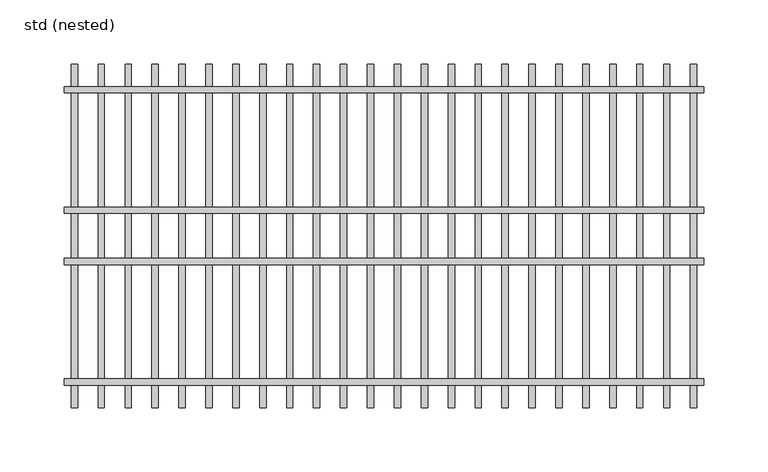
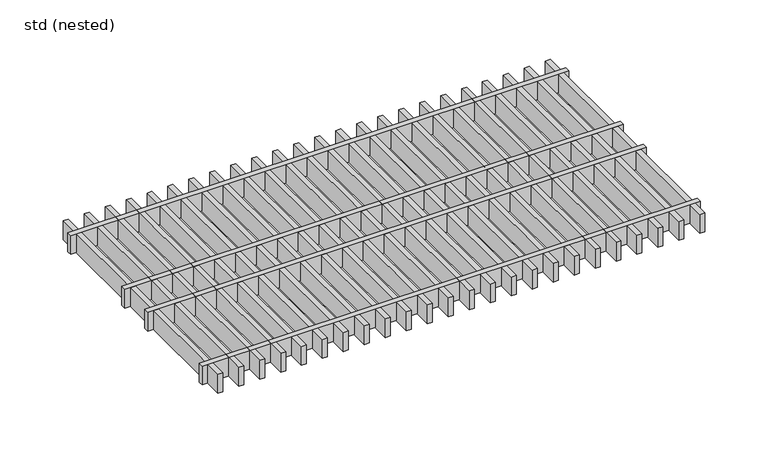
"""IFC4 building model written with IfcOpenShell, lengths in millimetres: sanitary terminal geometry, ZZZ_do not use_PF_ST_UN_grating for box channel_ACO : std (nested)."""

from ifc_helpers import new_model, si_unit, frame, origin, place, context, project, spatial, polyline, outline, extrude, source, transform, mapped, element, save


def std_nested_95b3bbc4(model_context):
    return source(origin(), model_context, "Body", "SweptSolid", [
        extrude(outline(polyline([(249.5, -116.5), (-249.5, -116.5), (-249.5, -111.5), (249.5, -111.5), (249.5, -116.5)])), frame((0.0, 0.0, -20.0), z_axis=(0.0, 0.0, 1.0), x_axis=(1.0, 0.0, 0.0)), (0.0, 0.0, 1.0), 20.0),
        extrude(outline(polyline([(249.5, 116.5), (249.5, 111.5), (-249.5, 111.5), (-249.5, 116.5), (249.5, 116.5)])), frame((0.0, 0.0, -20.0), z_axis=(0.0, 0.0, 1.0), x_axis=(1.0, 0.0, 0.0)), (0.0, 0.0, 1.0), 20.0),
        extrude(outline(polyline([(249.5, 22.5), (249.5, 17.5), (-249.5, 17.5), (-249.5, 22.5), (249.5, 22.5)])), frame((0.0, 0.0, -20.0), z_axis=(0.0, 0.0, 1.0), x_axis=(1.0, 0.0, 0.0)), (0.0, 0.0, 1.0), 20.0),
        extrude(outline(polyline([(249.5, -22.5), (-249.5, -22.5), (-249.5, -17.5), (249.5, -17.5), (249.5, -22.5)])), frame((0.0, 0.0, -20.0), z_axis=(0.0, 0.0, 1.0), x_axis=(1.0, 0.0, 0.0)), (0.0, 0.0, 1.0), 20.0),
        extrude(outline(polyline([(-244.0, 134.0), (-239.0, 134.0), (-239.0, -134.0), (-244.0, -134.0), (-244.0, 134.0)])), frame((0.0, 0.0, -20.0), z_axis=(0.0, 0.0, 1.0), x_axis=(1.0, 0.0, 0.0)), (0.0, 0.0, 1.0), 20.0),
        extrude(outline(polyline([(-223.0, 134.0), (-218.0, 134.0), (-218.0, -134.0), (-223.0, -134.0), (-223.0, 134.0)])), frame((0.0, 0.0, -20.0), z_axis=(0.0, 0.0, 1.0), x_axis=(1.0, 0.0, 0.0)), (0.0, 0.0, 1.0), 20.0),
        extrude(outline(polyline([(-202.0, 134.0), (-197.0, 134.0), (-197.0, -134.0), (-202.0, -134.0), (-202.0, 134.0)])), frame((0.0, 0.0, -20.0), z_axis=(0.0, 0.0, 1.0), x_axis=(1.0, 0.0, 0.0)), (0.0, 0.0, 1.0), 20.0),
        extrude(outline(polyline([(-181.0, 134.0), (-176.0, 134.0), (-176.0, -134.0), (-181.0, -134.0), (-181.0, 134.0)])), frame((0.0, 0.0, -20.0), z_axis=(0.0, 0.0, 1.0), x_axis=(1.0, 0.0, 0.0)), (0.0, 0.0, 1.0), 20.0),
        extrude(outline(polyline([(-160.0, 134.0), (-155.0, 134.0), (-155.0, -134.0), (-160.0, -134.0), (-160.0, 134.0)])), frame((0.0, 0.0, -20.0), z_axis=(0.0, 0.0, 1.0), x_axis=(1.0, 0.0, 0.0)), (0.0, 0.0, 1.0), 20.0),
        extrude(outline(polyline([(-139.0, 134.0), (-134.0, 134.0), (-134.0, -134.0), (-139.0, -134.0), (-139.0, 134.0)])), frame((0.0, 0.0, -20.0), z_axis=(0.0, 0.0, 1.0), x_axis=(1.0, 0.0, 0.0)), (0.0, 0.0, 1.0), 20.0),
        extrude(outline(polyline([(-118.0, 134.0), (-113.0, 134.0), (-113.0, -134.0), (-118.0, -134.0), (-118.0, 134.0)])), frame((0.0, 0.0, -20.0), z_axis=(0.0, 0.0, 1.0), x_axis=(1.0, 0.0, 0.0)), (0.0, 0.0, 1.0), 20.0),
        extrude(outline(polyline([(-97.0, 134.0), (-92.0, 134.0), (-92.0, -134.0), (-97.0, -134.0), (-97.0, 134.0)])), frame((0.0, 0.0, -20.0), z_axis=(0.0, 0.0, 1.0), x_axis=(1.0, 0.0, 0.0)), (0.0, 0.0, 1.0), 20.0),
        extrude(outline(polyline([(-76.0, 134.0), (-71.0, 134.0), (-71.0, -134.0), (-76.0, -134.0), (-76.0, 134.0)])), frame((0.0, 0.0, -20.0), z_axis=(0.0, 0.0, 1.0), x_axis=(1.0, 0.0, 0.0)), (0.0, 0.0, 1.0), 20.0),
        extrude(outline(polyline([(-55.0, 134.0), (-50.0, 134.0), (-50.0, -134.0), (-55.0, -134.0), (-55.0, 134.0)])), frame((0.0, 0.0, -20.0), z_axis=(0.0, 0.0, 1.0), x_axis=(1.0, 0.0, 0.0)), (0.0, 0.0, 1.0), 20.0),
        extrude(outline(polyline([(-34.0, 134.0), (-29.0, 134.0), (-29.0, -134.0), (-34.0, -134.0), (-34.0, 134.0)])), frame((0.0, 0.0, -20.0), z_axis=(0.0, 0.0, 1.0), x_axis=(1.0, 0.0, 0.0)), (0.0, 0.0, 1.0), 20.0),
        extrude(outline(polyline([(244.0, 134.0), (244.0, -134.0), (239.0, -134.0), (239.0, 134.0), (244.0, 134.0)])), frame((0.0, 0.0, -20.0), z_axis=(0.0, 0.0, 1.0), x_axis=(1.0, 0.0, 0.0)), (0.0, 0.0, 1.0), 20.0),
        extrude(outline(polyline([(223.0, 134.0), (223.0, -134.0), (218.0, -134.0), (218.0, 134.0), (223.0, 134.0)])), frame((0.0, 0.0, -20.0), z_axis=(0.0, 0.0, 1.0), x_axis=(1.0, 0.0, 0.0)), (0.0, 0.0, 1.0), 20.0),
        extrude(outline(polyline([(202.0, 134.0), (202.0, -134.0), (197.0, -134.0), (197.0, 134.0), (202.0, 134.0)])), frame((0.0, 0.0, -20.0), z_axis=(0.0, 0.0, 1.0), x_axis=(1.0, 0.0, 0.0)), (0.0, 0.0, 1.0), 20.0),
        extrude(outline(polyline([(181.0, 134.0), (181.0, -134.0), (176.0, -134.0), (176.0, 134.0), (181.0, 134.0)])), frame((0.0, 0.0, -20.0), z_axis=(0.0, 0.0, 1.0), x_axis=(1.0, 0.0, 0.0)), (0.0, 0.0, 1.0), 20.0),
        extrude(outline(polyline([(160.0, 134.0), (160.0, -134.0), (155.0, -134.0), (155.0, 134.0), (160.0, 134.0)])), frame((0.0, 0.0, -20.0), z_axis=(0.0, 0.0, 1.0), x_axis=(1.0, 0.0, 0.0)), (0.0, 0.0, 1.0), 20.0),
        extrude(outline(polyline([(139.0, 134.0), (139.0, -134.0), (134.0, -134.0), (134.0, 134.0), (139.0, 134.0)])), frame((0.0, 0.0, -20.0), z_axis=(0.0, 0.0, 1.0), x_axis=(1.0, 0.0, 0.0)), (0.0, 0.0, 1.0), 20.0),
        extrude(outline(polyline([(118.0, 134.0), (118.0, -134.0), (113.0, -134.0), (113.0, 134.0), (118.0, 134.0)])), frame((0.0, 0.0, -20.0), z_axis=(0.0, 0.0, 1.0), x_axis=(1.0, 0.0, 0.0)), (0.0, 0.0, 1.0), 20.0),
        extrude(outline(polyline([(97.0, 134.0), (97.0, -134.0), (92.0, -134.0), (92.0, 134.0), (97.0, 134.0)])), frame((0.0, 0.0, -20.0), z_axis=(0.0, 0.0, 1.0), x_axis=(1.0, 0.0, 0.0)), (0.0, 0.0, 1.0), 20.0),
        extrude(outline(polyline([(76.0, 134.0), (76.0, -134.0), (71.0, -134.0), (71.0, 134.0), (76.0, 134.0)])), frame((0.0, 0.0, -20.0), z_axis=(0.0, 0.0, 1.0), x_axis=(1.0, 0.0, 0.0)), (0.0, 0.0, 1.0), 20.0),
        extrude(outline(polyline([(55.0, 134.0), (55.0, -134.0), (50.0, -134.0), (50.0, 134.0), (55.0, 134.0)])), frame((0.0, 0.0, -20.0), z_axis=(0.0, 0.0, 1.0), x_axis=(1.0, 0.0, 0.0)), (0.0, 0.0, 1.0), 20.0),
        extrude(outline(polyline([(34.0, 134.0), (34.0, -134.0), (29.0, -134.0), (29.0, 134.0), (34.0, 134.0)])), frame((0.0, 0.0, -20.0), z_axis=(0.0, 0.0, 1.0), x_axis=(1.0, 0.0, 0.0)), (0.0, 0.0, 1.0), 20.0),
        extrude(outline(polyline([(-13.0, 134.0), (-8.0, 134.0), (-8.0, -134.0), (-13.0, -134.0), (-13.0, 134.0)])), frame((0.0, 0.0, -20.0), z_axis=(0.0, 0.0, 1.0), x_axis=(1.0, 0.0, 0.0)), (0.0, 0.0, 1.0), 20.0),
        extrude(outline(polyline([(13.0, 134.0), (13.0, -134.0), (8.0, -134.0), (8.0, 134.0), (13.0, 134.0)])), frame((0.0, 0.0, -20.0), z_axis=(0.0, 0.0, 1.0), x_axis=(1.0, 0.0, 0.0)), (0.0, 0.0, 1.0), 20.0),
    ])


if __name__ == "__main__":
    model = new_model("IFC4")
    model_context = context("Model", 3, world=origin())
    ifc_project = project(units=[si_unit("LENGTHUNIT", "METRE", prefix="MILLI")], contexts=[model_context])
    site = spatial("IfcSite", under=ifc_project)
    building = spatial("IfcBuilding", under=site)
    placement = place(None, origin())
    std_nested_shape = std_nested_95b3bbc4(model_context)
    element("IfcSanitaryTerminal", 1, ObjectType="ZZZ_do not use_PF_ST_UN_grating for box channel_ACO : std (nested)", at=placement, inside=building, context=model_context, shape_type="MappedRepresentation", body=[
        mapped(std_nested_shape, transform((0.0, 0.0, 0.0), x_axis=(1.0, 0.0, 0.0), y_axis=(0.0, 1.0, 0.0), z_axis=(0.0, 0.0, 1.0))),
    ])
    save(model, "model.ifc")
